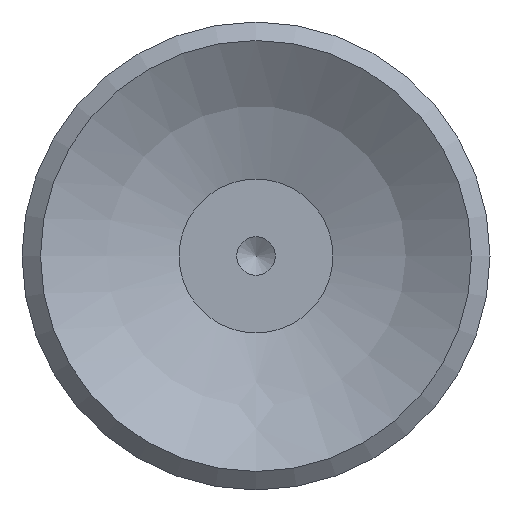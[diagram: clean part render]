
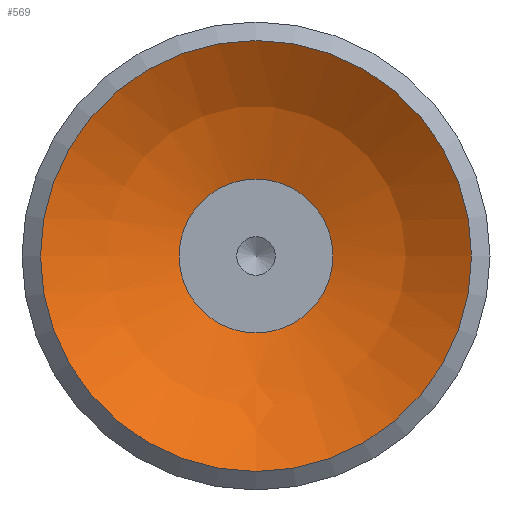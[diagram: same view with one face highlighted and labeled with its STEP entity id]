
A CAD part, front view. The second image highlights one B-rep face of the part: STEP entity #569.
In plain terms, the highlighted spherical face has radius 11.5 mm.
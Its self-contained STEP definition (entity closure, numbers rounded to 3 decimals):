
#569=ADVANCED_FACE('',(#933,#934),#935,.F.);
#933=FACE_OUTER_BOUND('',#1408,.T.);
#934=FACE_OUTER_BOUND('',#1409,.T.);
#935=SPHERICAL_SURFACE('',#1410,11.5);
#1408=EDGE_LOOP('',(#2407));
#1409=EDGE_LOOP('',(#2408));
#1410=AXIS2_PLACEMENT_3D('',#2409,#2410,#2411);
#2407=ORIENTED_EDGE('',*,*,#3225,.T.);
#2408=ORIENTED_EDGE('',*,*,#3226,.F.);
#2409=CARTESIAN_POINT('',(0.001,9.494,-22.735));
#2410=DIRECTION('',(0.0,0.,-1.0));
#2411=DIRECTION('',(1.0,0.0,0.0));
#3225=EDGE_CURVE('',#3806,#3806,#3807,.T.);
#3226=EDGE_CURVE('',#3808,#3808,#3809,.T.);
#3806=VERTEX_POINT('',#5483);
#3807=CIRCLE('',#5484,7.0);
#3808=VERTEX_POINT('',#5485);
#3809=CIRCLE('',#5486,2.5);
#5483=CARTESIAN_POINT('',(0.001,16.494,-13.611));
#5484=AXIS2_PLACEMENT_3D('',#6055,#6056,#6057);
#5485=CARTESIAN_POINT('',(0.001,11.994,-11.51));
#5486=AXIS2_PLACEMENT_3D('',#6058,#6059,#6060);
#6055=CARTESIAN_POINT('',(0.001,9.494,-13.611));
#6056=DIRECTION('',(0.0,0.,-1.0));
#6057=DIRECTION('',(0.0,1.0,0.));
#6058=CARTESIAN_POINT('',(0.001,9.494,-11.51));
#6059=DIRECTION('',(0.0,0.,-1.0));
#6060=DIRECTION('',(0.0,1.0,0.));
